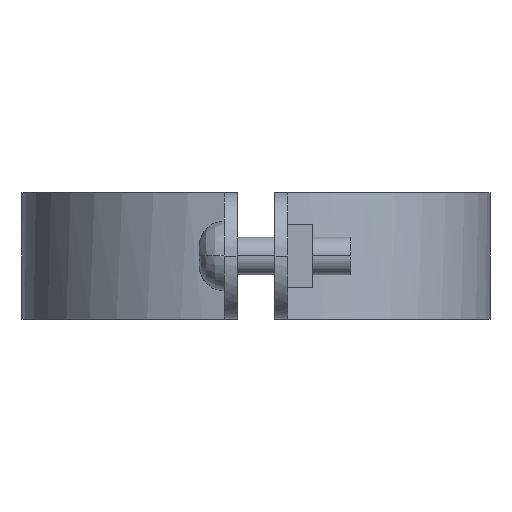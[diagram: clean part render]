
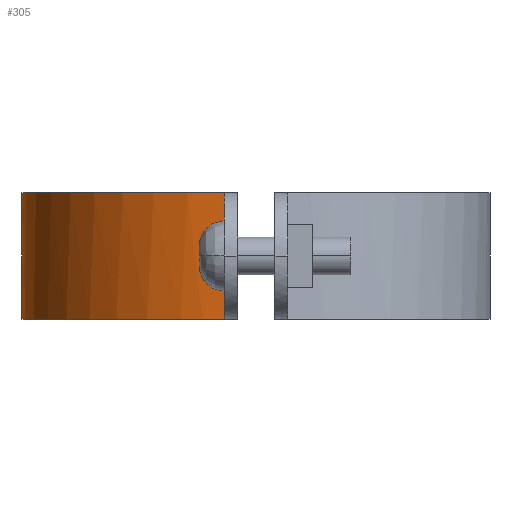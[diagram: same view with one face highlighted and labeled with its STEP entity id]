
A CAD part, left-side view. The second image highlights one B-rep face of the part: STEP entity #305.
In plain terms, the highlighted free-form (B-spline) face has degree [3, 1] with [4, 2] control points.
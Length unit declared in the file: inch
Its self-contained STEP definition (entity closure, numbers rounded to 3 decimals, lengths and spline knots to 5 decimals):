
#305=ADVANCED_FACE('',(#575),#576,.T.);
#575=FACE_OUTER_BOUND('',#1224,.T.);
#576=B_SPLINE_SURFACE_WITH_KNOTS('',3,1,((#1225,#1226),(#1227,#1228),(#1229,#1230),(#1231,#1232)),.UNSPECIFIED.,.F.,.F.,.F.,(4,4),(2,2),(0.0,1.0),(0.0,1.25),.UNSPECIFIED.);
#1224=EDGE_LOOP('',(#1879,#1880,#1881,#1882));
#1225=CARTESIAN_POINT('',(3.03033,4.63904,0.0));
#1226=CARTESIAN_POINT('',(3.03033,4.63904,1.25));
#1227=CARTESIAN_POINT('',(1.87454,4.63904,0.0));
#1228=CARTESIAN_POINT('',(1.87454,4.63904,1.25));
#1229=CARTESIAN_POINT('',(0.89647,3.7853,0.0));
#1230=CARTESIAN_POINT('',(0.89647,3.7853,1.25));
#1231=CARTESIAN_POINT('',(0.74029,2.64014,0.0));
#1232=CARTESIAN_POINT('',(0.74029,2.64014,1.25));
#1879=ORIENTED_EDGE('',*,*,#2153,.T.);
#1880=ORIENTED_EDGE('',*,*,#1971,.T.);
#1881=ORIENTED_EDGE('',*,*,#2013,.T.);
#1882=ORIENTED_EDGE('',*,*,#2006,.F.);
#1971=EDGE_CURVE('',#2256,#2260,#2262,.T.);
#2006=EDGE_CURVE('',#2318,#2320,#2321,.T.);
#2013=EDGE_CURVE('',#2260,#2320,#2331,.T.);
#2153=EDGE_CURVE('',#2318,#2256,#2536,.T.);
#2256=VERTEX_POINT('',#2714);
#2260=VERTEX_POINT('',#2722);
#2262=LINE('',#2725,#2726);
#2318=VERTEX_POINT('',#2812);
#2320=VERTEX_POINT('',#2815);
#2321=LINE('',#2816,#2817);
#2331=B_SPLINE_CURVE_WITH_KNOTS('',3,(#2832,#2833,#2834,#2835),.UNSPECIFIED.,.F.,.F.,(4,4),(-1.0,-0.0),.UNSPECIFIED.);
#2536=B_SPLINE_CURVE_WITH_KNOTS('',3,(#3225,#3226,#3227,#3228),.UNSPECIFIED.,.F.,.F.,(4,4),(0.0,1.0),.UNSPECIFIED.);
#2714=CARTESIAN_POINT('',(0.74029,2.64014,0.00012));
#2722=CARTESIAN_POINT('',(0.74029,2.64014,1.24992));
#2725=CARTESIAN_POINT('',(0.74029,2.64014,0.0));
#2726=VECTOR('',#3334,1.0);
#2812=CARTESIAN_POINT('',(3.03033,4.63904,0.00012));
#2815=CARTESIAN_POINT('',(3.03033,4.63904,1.24992));
#2816=CARTESIAN_POINT('',(3.03033,4.63904,0.0));
#2817=VECTOR('',#3360,1.0);
#2832=CARTESIAN_POINT('',(0.74029,2.64014,1.24992));
#2833=CARTESIAN_POINT('',(0.89647,3.7853,1.24992));
#2834=CARTESIAN_POINT('',(1.87454,4.63904,1.24992));
#2835=CARTESIAN_POINT('',(3.03033,4.63904,1.24992));
#3225=CARTESIAN_POINT('',(3.03033,4.63904,0.00012));
#3226=CARTESIAN_POINT('',(1.87454,4.63904,0.00012));
#3227=CARTESIAN_POINT('',(0.89647,3.7853,0.00012));
#3228=CARTESIAN_POINT('',(0.74029,2.64014,0.00012));
#3334=DIRECTION('',(0.0,0.0,1.0));
#3360=DIRECTION('',(0.0,0.0,1.0));
